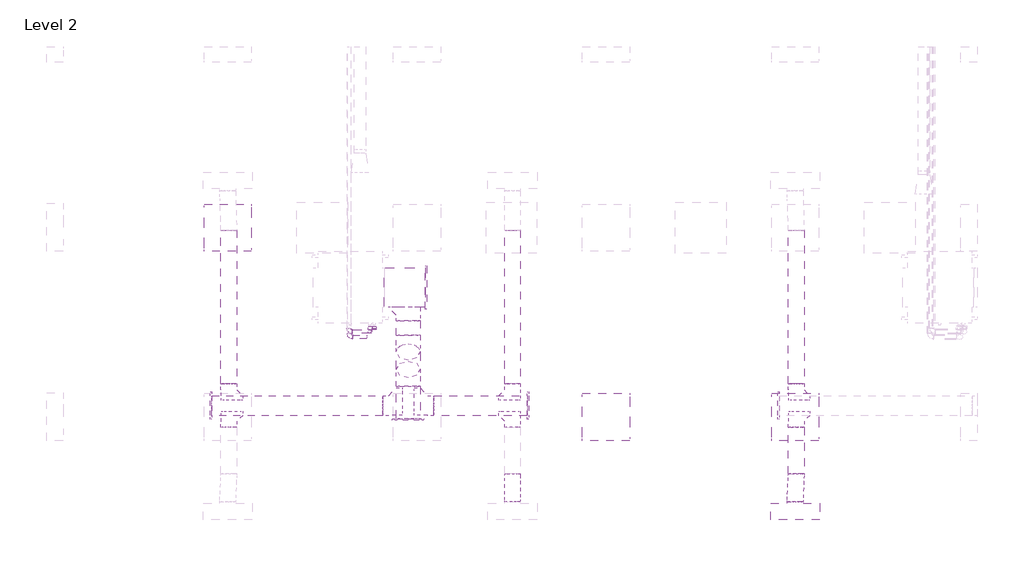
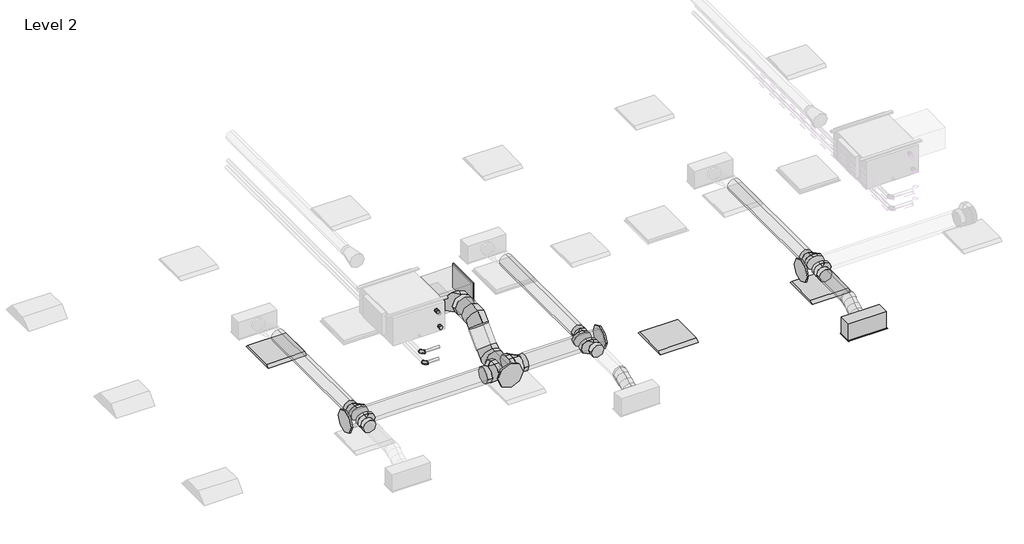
# One storey, part 5 of 26: 16 duct fittings, 12 duct segments, 4 pipe fittings, 4 pipe segments, 3 light fixtures, 1 air terminal.
"""IFC4 building model written with IfcOpenShell, lengths in millimetres."""

from ifc_helpers import new_model, si_unit, point, frame, frame_2d, origin, place, context, project, spatial, polyline, circle_curve, ellipse_curve, trimmed, segment, composite_curve, outline, extrude, transform, mapped, element, save
from ifc_brep_helpers import plane_surface, cylinder_surface, advanced_brep
from components import supply_diffuser_with_plenum_linear_slot_hosted_2b730595, dw144_rectangular_blank_end_standard_8fde7d16, dw144_round_blank_end_standard_f82b0856, dw144_round_blank_end_standard_9aa061e7, dw144_round_segmented_bend_slip_joint_standard_8b80c5ae, dw144_round_shoe_branch_slip_joint1_standard_2_15a2edd8, dw144_round_shoe_branch_slip_joint1_standard_2_559552f4, dw144_round_shoe_branch_slip_joint1_standard_2_7ba9e4ed, dw144_round_shoe_branch_slip_joint1_standard_2_67b64720, light_fixture_1c7c1157, elbow_threaded_gmi_standard_b4aa7741, socket_reducing_threaded_gmi_standard_0a4076b8

model = new_model("IFC4")

# Units and contexts
model_context = context("Model", 3, world=origin())
ifc_project = project(units=[si_unit("LENGTHUNIT", "METRE", prefix="MILLI")], contexts=[model_context])

# Site, building, storey
site = spatial("IfcSite", under=ifc_project)
building = spatial("IfcBuilding", under=site)
storey = spatial("IfcBuildingStorey", under=building, Name="Level 2", Elevation=7800.0)

# Air terminal
placement = place(None, origin())
supply_diffuser_with_plenum_linear_slot_hosted_shape = supply_diffuser_with_plenum_linear_slot_hosted_2b730595(model_context)
element("IfcAirTerminal", 1, ObjectType="Supply Diffuser with Plenum - Linear Slot - Hosted : 24\" x 8\"-200 In Inlet  4-Slot", at=placement, inside=storey, context=model_context, shape_type="MappedRepresentation", body=[
    mapped(supply_diffuser_with_plenum_linear_slot_hosted_shape, transform((23562.2000027, 963.2000004, 10600.0), x_axis=(1.0, 0.0, 0.0), y_axis=(0.0, -1.0, 0.0), z_axis=(0.0, 0.0, -1.0))),
])

# Duct fittings
dw144_rectangular_blank_end_standard_shape = dw144_rectangular_blank_end_standard_8fde7d16(model_context)
element("IfcDuctFitting", 2, ObjectType="DW144 Rectangular Blank End : Standard", at=placement, inside=storey, context=model_context, shape_type="MappedRepresentation", body=[
    mapped(dw144_rectangular_blank_end_standard_shape, transform((18866.2561025, 3806.0000004, 11276.3911538), x_axis=(1.0, 0.0, 0.0), y_axis=(0.0, 1.0, 0.0), z_axis=(0.0, 0.0, 1.0))),
])
dw144_round_blank_end_standard_shape = dw144_round_blank_end_standard_f82b0856(model_context)
element("IfcDuctFitting", 3, ObjectType="DW144 Round Blank End : Standard", at=placement, inside=storey, context=model_context, shape_type="MappedRepresentation", body=[
    mapped(dw144_round_blank_end_standard_shape, transform((18651.4561025, 2142.9916128, 10872.2088531), x_axis=(0.0, -1.0, 0.0), y_axis=(1.0, 0.0, 0.0), z_axis=(0.0, 0.0, 1.0))),
])
dw144_round_blank_end_standard_2_shape = dw144_round_blank_end_standard_9aa061e7(model_context)
element("IfcDuctFitting", 4, ObjectType="DW144 Round Blank End : Standard", at=placement, inside=storey, context=model_context, shape_type="MappedRepresentation", body=[
    mapped(dw144_round_blank_end_standard_2_shape, transform((20161.4561025, 2306.5018192, 10872.2088531), x_axis=(1.0, 0.0, 0.0), y_axis=(0.0, 1.0, 0.0), z_axis=(0.0, 0.0, 1.0))),
])
element("IfcDuctFitting", 5, ObjectType="DW144 Round Blank End : Standard", at=placement, inside=storey, context=model_context, shape_type="MappedRepresentation", body=[
    mapped(dw144_round_blank_end_standard_2_shape, transform((16161.4561025, 2306.5018192, 10872.2088531), x_axis=(-1.0, 0.0, 0.0), y_axis=(0.0, -1.0, 0.0), z_axis=(0.0, 0.0, 1.0))),
])
element("IfcDuctFitting", 6, ObjectType="DW144 Round Blank End : Standard", at=placement, inside=storey, context=model_context, shape_type="MappedRepresentation", body=[
    mapped(dw144_round_blank_end_standard_2_shape, transform((23361.4561025, 2306.5018192, 10872.2088531), x_axis=(-1.0, 0.0, 0.0), y_axis=(0.0, -1.0, 0.0), z_axis=(0.0, 0.0, 1.0))),
])
dw144_round_segmented_bend_slip_joint_standard_shape = dw144_round_segmented_bend_slip_joint_standard_8b80c5ae(model_context)
element("IfcDuctFitting", 7, ObjectType="DW144 Round Segmented Bend - Slip Joint : Standard", at=placement, inside=storey, context=model_context, shape_type="MappedRepresentation", body=[
    mapped(dw144_round_segmented_bend_slip_joint_standard_shape, transform((18651.4561025, 2678.6338536, 10872.2088531), x_axis=(0.0, -0.7071067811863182, -0.7071067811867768), y_axis=(0.0, 0.7071067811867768, -0.7071067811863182), z_axis=(1.0, 0.0, 0.0))),
])
element("IfcDuctFitting", 8, ObjectType="DW144 Round Segmented Bend - Slip Joint : Standard", at=placement, inside=storey, context=model_context, shape_type="MappedRepresentation", body=[
    mapped(dw144_round_segmented_bend_slip_joint_standard_shape, transform((18651.4561025, 3076.0000004, 11269.575), x_axis=(0.0, -1.0, 0.0), y_axis=(0.0, 0.0, 1.0), z_axis=(-1.0, 0.0, 0.0))),
])
dw144_round_shoe_branch_slip_joint1_standard_2_shape = dw144_round_shoe_branch_slip_joint1_standard_2_15a2edd8(model_context)
element("IfcDuctFitting", 9, ObjectType="DW144 Round Shoe Branch - Slip Joint1 : Standard 2", at=placement, inside=storey, context=model_context, shape_type="MappedRepresentation", body=[
    mapped(dw144_round_shoe_branch_slip_joint1_standard_2_shape, transform((16373.9000022, 2181.5018192, 10872.2088531), x_axis=(0.0, -1.0, 0.0), y_axis=(-1.0, 0.0, 0.0), z_axis=(0.0, 0.0, -1.0))),
])
element("IfcDuctFitting", 10, ObjectType="DW144 Round Shoe Branch - Slip Joint1 : Standard 2", at=placement, inside=storey, context=model_context, shape_type="MappedRepresentation", body=[
    mapped(dw144_round_shoe_branch_slip_joint1_standard_2_shape, transform((16373.9000022, 2431.5018192, 10872.2088531), x_axis=(0.0, 1.0, 0.0), y_axis=(-1.0, 0.0, 0.0), z_axis=(0.0, 0.0, 1.0))),
])
element("IfcDuctFitting", 11, ObjectType="DW144 Round Shoe Branch - Slip Joint1 : Standard 2", at=placement, inside=storey, context=model_context, shape_type="MappedRepresentation", body=[
    mapped(dw144_round_shoe_branch_slip_joint1_standard_2_shape, transform((23573.9000022, 2181.5018192, 10872.2088531), x_axis=(0.0, -1.0, 0.0), y_axis=(-1.0, 0.0, 0.0), z_axis=(0.0, 0.0, -1.0))),
])
element("IfcDuctFitting", 12, ObjectType="DW144 Round Shoe Branch - Slip Joint1 : Standard 2", at=placement, inside=storey, context=model_context, shape_type="MappedRepresentation", body=[
    mapped(dw144_round_shoe_branch_slip_joint1_standard_2_shape, transform((23573.9000022, 2431.5018192, 10872.2088531), x_axis=(0.0, 1.0, 0.0), y_axis=(-1.0, 0.0, 0.0), z_axis=(0.0, 0.0, 1.0))),
])
dw144_round_shoe_branch_slip_joint1_standard_2_2_shape = dw144_round_shoe_branch_slip_joint1_standard_2_559552f4(model_context)
element("IfcDuctFitting", 13, ObjectType="DW144 Round Shoe Branch - Slip Joint1 : Standard 2", at=placement, inside=storey, context=model_context, shape_type="MappedRepresentation", body=[
    mapped(dw144_round_shoe_branch_slip_joint1_standard_2_2_shape, transform((19973.9000022, 2181.5018192, 10872.2088531), x_axis=(0.0, -1.0, 0.0), y_axis=(-1.0, 0.0, 0.0), z_axis=(0.0, 0.0, -1.0))),
])
element("IfcDuctFitting", 14, ObjectType="DW144 Round Shoe Branch - Slip Joint1 : Standard 2", at=placement, inside=storey, context=model_context, shape_type="MappedRepresentation", body=[
    mapped(dw144_round_shoe_branch_slip_joint1_standard_2_2_shape, transform((19973.9000022, 2431.5018192, 10872.2088531), x_axis=(0.0, 1.0, 0.0), y_axis=(-1.0, 0.0, 0.0), z_axis=(0.0, 0.0, 1.0))),
])
dw144_round_shoe_branch_slip_joint1_standard_2_3_shape = dw144_round_shoe_branch_slip_joint1_standard_2_7ba9e4ed(model_context)
element("IfcDuctFitting", 15, ObjectType="DW144 Round Shoe Branch - Slip Joint1 : Standard 2", at=placement, inside=storey, context=model_context, shape_type="MappedRepresentation", body=[
    mapped(dw144_round_shoe_branch_slip_joint1_standard_2_3_shape, transform((18651.4561025, 3556.0000004, 11269.575), x_axis=(0.0, -1.0, 0.0), y_axis=(-1.0, 0.0, 0.0), z_axis=(0.0, 0.0, -1.0))),
])
dw144_round_shoe_branch_slip_joint1_standard_2_4_shape = dw144_round_shoe_branch_slip_joint1_standard_2_67b64720(model_context)
element("IfcDuctFitting", 16, ObjectType="DW144 Round Shoe Branch - Slip Joint1 : Standard 2", at=placement, inside=storey, context=model_context, shape_type="MappedRepresentation", body=[
    mapped(dw144_round_shoe_branch_slip_joint1_standard_2_4_shape, transform((18801.4561025, 2306.5018192, 10872.2088531), x_axis=(1.0, 0.0, 0.0), y_axis=(0.0, -1.0, 0.0), z_axis=(0.0, 0.0, -1.0))),
])
element("IfcDuctFitting", 17, ObjectType="DW144 Round Shoe Branch - Slip Joint1 : Standard 2", at=placement, inside=storey, context=model_context, shape_type="MappedRepresentation", body=[
    mapped(dw144_round_shoe_branch_slip_joint1_standard_2_4_shape, transform((18501.4561025, 2306.5018192, 10872.2088531), x_axis=(-1.0, 0.0, 0.0), y_axis=(0.0, -1.0, 0.0), z_axis=(0.0, 0.0, 1.0))),
])

# Duct segments
element("IfcDuctSegment", 18, ObjectType="DW144 Flanged Med Radius Bend / Shoe Branch", at=placement, inside=storey, context=model_context, shape_type="SweptSolid", body=[
    extrude(outline(polyline([(18346.6561025, 3556.0000004), (18346.6561025, 4056.0000004), (18866.2561025, 4056.0000004), (18866.2561025, 3556.0000004), (18346.6561025, 3556.0000004)])), frame((0.0, 0.0, 11101.3911538), z_axis=(0.0, 0.0, 1.0), x_axis=(1.0, 0.0, 0.0)), (0.0, 0.0, 1.0), 350.0),
])
element("IfcDuctSegment", 19, ObjectType="DW144 Segmented Bend / Shoe Branch", at=placement, inside=storey, context=model_context, shape_type="SweptSolid", body=[
    extrude(outline(composite_curve([segment(trimmed(circle_curve(frame_2d((11269.575, 18651.4561025)), 150.0), [point((11269.575, 18501.4561025))], [point((11119.575, 18651.4561025))], False, "CARTESIAN"), True, "CONTINUOUS"), segment(trimmed(circle_curve(frame_2d((11269.575, 18651.4561025)), 150.0), [point((11119.575, 18651.4561025))], [point((11269.575, 18801.4561025))], False, "CARTESIAN"), True, "CONTINUOUS"), segment(trimmed(circle_curve(frame_2d((11269.575, 18651.4561025)), 150.0), [point((11269.575, 18801.4561025))], [point((11419.575, 18651.4561025))], False, "CARTESIAN"), True, "CONTINUOUS"), segment(trimmed(circle_curve(frame_2d((11269.575, 18651.4561025)), 150.0), [point((11419.575, 18651.4561025))], [point((11269.575, 18501.4561025))], False, "CARTESIAN"), True, "CONTINUOUS")], self_intersect=False)), frame((0.0, 3200.2640691, 0.0), z_axis=(0.0, 1.0, 0.0), x_axis=(0.0, 0.0, 1.0)), (0.0, 0.0, 1.0), 180.7359313),
])
element("IfcDuctSegment", 20, ObjectType="DW144 Segmented Bend / Shoe Branch", at=placement, inside=storey, context=model_context, shape_type="SweptSolid", body=[
    extrude(outline(composite_curve([segment(trimmed(circle_curve(frame_2d((10872.2088531, 18651.4561025)), 150.0), [point((10872.2088531, 18501.4561025))], [point((10722.2088531, 18651.4561025))], False, "CARTESIAN"), True, "CONTINUOUS"), segment(trimmed(circle_curve(frame_2d((10872.2088531, 18651.4561025)), 150.0), [point((10722.2088531, 18651.4561025))], [point((10872.2088531, 18801.4561025))], False, "CARTESIAN"), True, "CONTINUOUS"), segment(trimmed(circle_curve(frame_2d((10872.2088531, 18651.4561025)), 150.0), [point((10872.2088531, 18801.4561025))], [point((11022.2088531, 18651.4561025))], False, "CARTESIAN"), True, "CONTINUOUS"), segment(trimmed(circle_curve(frame_2d((10872.2088531, 18651.4561025)), 150.0), [point((11022.2088531, 18651.4561025))], [point((10872.2088531, 18501.4561025))], False, "CARTESIAN"), True, "CONTINUOUS")], self_intersect=False)), frame((0.0, 2142.9916128, 0.0), z_axis=(0.0, 1.0, 0.0), x_axis=(0.0, 0.0, 1.0)), (0.0, 0.0, 1.0), 411.3781721),
])
element("IfcDuctSegment", 21, ObjectType="DW144 Segmented Bend / Shoe Branch", at=placement, inside=storey, context=model_context, shape_type="SweptSolid", body=[
    extrude(outline(composite_curve([segment(trimmed(circle_curve(frame_2d((0.0, -150.0)), 150.0), [point((-150.0, -150.0))], [point((0.0, 0.0))], False, "CARTESIAN"), True, "CONTINUOUS"), segment(trimmed(circle_curve(frame_2d((0.0, -150.0)), 150.0), [point((0.0, 0.0))], [point((150.0, -150.0))], False, "CARTESIAN"), True, "CONTINUOUS"), segment(trimmed(circle_curve(frame_2d((0.0, -150.0)), 150.0), [point((150.0, -150.0))], [point((0.0, -300.0))], False, "CARTESIAN"), True, "CONTINUOUS"), segment(trimmed(circle_curve(frame_2d((0.0, -150.0)), 150.0), [point((0.0, -300.0))], [point((-150.0, -150.0))], False, "CARTESIAN"), True, "CONTINUOUS")], self_intersect=False)), frame((18651.4561025, 2872.5678364, 10854.0108016), z_axis=(0.0, 0.7071067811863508, 0.7071067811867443), x_axis=(1.0, 0.0, 0.0)), (0.0, 0.0, 1.0), 313.4324567),
])
element("IfcDuctSegment", 22, ObjectType="DW144 Segmented Bend / Shoe Branch", at=placement, inside=storey, context=model_context, shape_type="SweptSolid", body=[
    extrude(outline(composite_curve([segment(trimmed(circle_curve(frame_2d((2306.5018192, 10872.2088531)), 125.0), [point((2181.5018192, 10872.2088531))], [point((2306.5018192, 10997.2088531))], False, "CARTESIAN"), True, "CONTINUOUS"), segment(trimmed(circle_curve(frame_2d((2306.5018192, 10872.2088531)), 125.0), [point((2306.5018192, 10997.2088531))], [point((2431.5018192, 10872.2088531))], False, "CARTESIAN"), True, "CONTINUOUS"), segment(trimmed(circle_curve(frame_2d((2306.5018192, 10872.2088531)), 125.0), [point((2431.5018192, 10872.2088531))], [point((2306.5018192, 10747.2088531))], False, "CARTESIAN"), True, "CONTINUOUS"), segment(trimmed(circle_curve(frame_2d((2306.5018192, 10872.2088531)), 125.0), [point((2306.5018192, 10747.2088531))], [point((2181.5018192, 10872.2088531))], False, "CARTESIAN"), True, "CONTINUOUS")], self_intersect=False)), frame((18976.4561025, 0.0, 0.0), z_axis=(1.0, 0.0, 0.0), x_axis=(0.0, 1.0, 0.0)), (0.0, 0.0, 1.0), 1185.0),
])
element("IfcDuctSegment", 23, ObjectType="DW144 Segmented Bend / Shoe Branch", at=placement, inside=storey, context=model_context, shape_type="SweptSolid", body=[
    extrude(outline(composite_curve([segment(trimmed(circle_curve(frame_2d((2306.5018192, 10872.2088531)), 125.0), [point((2431.5018192, 10872.2088531))], [point((2306.5018192, 10747.2088531))], False, "CARTESIAN"), True, "CONTINUOUS"), segment(trimmed(circle_curve(frame_2d((2306.5018192, 10872.2088531)), 125.0), [point((2306.5018192, 10747.2088531))], [point((2181.5018192, 10872.2088531))], False, "CARTESIAN"), True, "CONTINUOUS"), segment(trimmed(circle_curve(frame_2d((2306.5018192, 10872.2088531)), 125.0), [point((2181.5018192, 10872.2088531))], [point((2306.5018192, 10997.2088531))], False, "CARTESIAN"), True, "CONTINUOUS"), segment(trimmed(circle_curve(frame_2d((2306.5018192, 10872.2088531)), 125.0), [point((2306.5018192, 10997.2088531))], [point((2431.5018192, 10872.2088531))], False, "CARTESIAN"), True, "CONTINUOUS")], self_intersect=False)), frame((16161.4561025, 0.0, 0.0), z_axis=(1.0, 0.0, 0.0), x_axis=(0.0, 1.0, 0.0)), (0.0, 0.0, 1.0), 2165.0),
])
element("IfcDuctSegment", 24, ObjectType="DW144 Segmented Bend / Shoe Branch", at=placement, inside=storey, context=model_context, shape_type="SweptSolid", body=[
    extrude(outline(composite_curve([segment(trimmed(circle_curve(frame_2d((10872.2088531, 19973.9000022)), 100.0), [point((10872.2088531, 20073.9000022))], [point((10972.2088531, 19973.9000022))], False, "CARTESIAN"), True, "CONTINUOUS"), segment(trimmed(circle_curve(frame_2d((10872.2088531, 19973.9000022)), 100.0), [point((10972.2088531, 19973.9000022))], [point((10872.2088531, 19873.9000022))], False, "CARTESIAN"), True, "CONTINUOUS"), segment(trimmed(circle_curve(frame_2d((10872.2088531, 19973.9000022)), 100.0), [point((10872.2088531, 19873.9000022))], [point((10772.2088531, 19973.9000022))], False, "CARTESIAN"), True, "CONTINUOUS"), segment(trimmed(circle_curve(frame_2d((10872.2088531, 19973.9000022)), 100.0), [point((10772.2088531, 19973.9000022))], [point((10872.2088531, 20073.9000022))], False, "CARTESIAN"), True, "CONTINUOUS")], self_intersect=False)), frame((0.0, 2581.5018192, 0.0), z_axis=(0.0, 1.0, 0.0), x_axis=(0.0, 0.0, 1.0)), (0.0, 0.0, 1.0), 1950.0),
])
element("IfcDuctSegment", 25, ObjectType="DW144 Segmented Bend / Shoe Branch", at=placement, inside=storey, context=model_context, shape_type="SweptSolid", body=[
    extrude(outline(composite_curve([segment(trimmed(circle_curve(frame_2d((10872.2088531, 16373.9000022)), 100.0), [point((10872.2088531, 16473.9000022))], [point((10972.2088531, 16373.9000022))], False, "CARTESIAN"), True, "CONTINUOUS"), segment(trimmed(circle_curve(frame_2d((10872.2088531, 16373.9000022)), 100.0), [point((10972.2088531, 16373.9000022))], [point((10872.2088531, 16273.9000022))], False, "CARTESIAN"), True, "CONTINUOUS"), segment(trimmed(circle_curve(frame_2d((10872.2088531, 16373.9000022)), 100.0), [point((10872.2088531, 16273.9000022))], [point((10772.2088531, 16373.9000022))], False, "CARTESIAN"), True, "CONTINUOUS"), segment(trimmed(circle_curve(frame_2d((10872.2088531, 16373.9000022)), 100.0), [point((10772.2088531, 16373.9000022))], [point((10872.2088531, 16473.9000022))], False, "CARTESIAN"), True, "CONTINUOUS")], self_intersect=False)), frame((0.0, 2581.5018192, 0.0), z_axis=(0.0, 1.0, 0.0), x_axis=(0.0, 0.0, 1.0)), (0.0, 0.0, 1.0), 1950.0),
])
element("IfcDuctSegment", 26, ObjectType="DW144 Segmented Bend / Shoe Branch", at=placement, inside=storey, context=model_context, shape_type="SweptSolid", body=[
    extrude(outline(composite_curve([segment(trimmed(circle_curve(frame_2d((10872.2088531, 23573.9000022)), 100.0), [point((10872.2088531, 23673.9000022))], [point((10972.2088531, 23573.9000022))], False, "CARTESIAN"), True, "CONTINUOUS"), segment(trimmed(circle_curve(frame_2d((10872.2088531, 23573.9000022)), 100.0), [point((10972.2088531, 23573.9000022))], [point((10872.2088531, 23473.9000022))], False, "CARTESIAN"), True, "CONTINUOUS"), segment(trimmed(circle_curve(frame_2d((10872.2088531, 23573.9000022)), 100.0), [point((10872.2088531, 23473.9000022))], [point((10772.2088531, 23573.9000022))], False, "CARTESIAN"), True, "CONTINUOUS"), segment(trimmed(circle_curve(frame_2d((10872.2088531, 23573.9000022)), 100.0), [point((10772.2088531, 23573.9000022))], [point((10872.2088531, 23673.9000022))], False, "CARTESIAN"), True, "CONTINUOUS")], self_intersect=False)), frame((0.0, 1441.5018192, 0.0), z_axis=(0.0, 1.0, 0.0), x_axis=(0.0, 0.0, 1.0)), (0.0, 0.0, 1.0), 590.0),
])
element("IfcDuctSegment", 27, ObjectType="DW144 Segmented Bend / Shoe Branch", at=placement, inside=storey, context=model_context, shape_type="SweptSolid", body=[
    extrude(outline(composite_curve([segment(trimmed(circle_curve(frame_2d((10872.2088531, 23573.9000022)), 100.0), [point((10872.2088531, 23673.9000022))], [point((10972.2088531, 23573.9000022))], False, "CARTESIAN"), True, "CONTINUOUS"), segment(trimmed(circle_curve(frame_2d((10872.2088531, 23573.9000022)), 100.0), [point((10972.2088531, 23573.9000022))], [point((10872.2088531, 23473.9000022))], False, "CARTESIAN"), True, "CONTINUOUS"), segment(trimmed(circle_curve(frame_2d((10872.2088531, 23573.9000022)), 100.0), [point((10872.2088531, 23473.9000022))], [point((10772.2088531, 23573.9000022))], False, "CARTESIAN"), True, "CONTINUOUS"), segment(trimmed(circle_curve(frame_2d((10872.2088531, 23573.9000022)), 100.0), [point((10772.2088531, 23573.9000022))], [point((10872.2088531, 23673.9000022))], False, "CARTESIAN"), True, "CONTINUOUS")], self_intersect=False)), frame((0.0, 2581.5018192, 0.0), z_axis=(0.0, 1.0, 0.0), x_axis=(0.0, 0.0, 1.0)), (0.0, 0.0, 1.0), 1950.0),
])
element("IfcDuctSegment", 28, ObjectType="Flex - Round", at=placement, inside=storey, context=model_context, shape_type="AdvancedBrep", body=[
    advanced_brep(
    [(20073.9000022, 1441.5018192, 10872.2088531), (19973.9000022, 1441.5018192, 10772.2088531), (19873.9000022, 1441.5018192, 10872.2088531), (19973.9000022, 1441.5018192, 10972.2088531), (20073.9000022, 1421.3839149, 10872.2088531), (19973.9000022, 1434.4005436, 10772.2088531), (19873.9000022, 1421.3839149, 10872.2088531), (19973.9000022, 1408.3672862, 10972.2088531), (20073.9000022, 1090.2000004, 10754.4), (19973.9000022, 1090.2000004, 10854.4), (19873.9000022, 1090.2000004, 10754.4), (19973.9000022, 1090.2000004, 10654.4), (20073.9000022, 1351.8737968, 10853.8012198), (19973.9000022, 1386.2511922, 10759.4579669), (19873.9000022, 1351.8737968, 10853.8012198), (19973.9000022, 1317.4964014, 10948.1444727), (20073.9000022, 1265.8509098, 10813.3044266), (19973.9000022, 1308.4439034, 10722.8288116), (19873.9000022, 1265.8509098, 10813.3044266), (19973.9000022, 1223.2579162, 10903.7800415), (20073.9000022, 1179.8280228, 10772.8076333), (19973.9000022, 1214.2054182, 10678.4643804), (19873.9000022, 1179.8280228, 10772.8076333), (19973.9000022, 1145.4506275, 10867.1508862), (20073.9000022, 1110.3179048, 10754.4), (19973.9000022, 1123.3345334, 10654.4), (19873.9000022, 1110.3179048, 10754.4), (19973.9000022, 1097.3012761, 10854.4)],
    [
        (0, 1, circle_curve(frame((19973.9000022, 1441.5018192, 10872.2088531), z_axis=(0.0, 1.0, 0.0), x_axis=(1.0, 0.0, 0.0)), 100.0)),
        (1, 2, circle_curve(frame((19973.9000022, 1441.5018192, 10872.2088531), z_axis=(0.0, 1.0, 0.0), x_axis=(1.0, 0.0, 0.0)), 100.0)),
        (2, 3, circle_curve(frame((19973.9000022, 1441.5018192, 10872.2088531), z_axis=(0.0, 1.0, 0.0), x_axis=(1.0, 0.0, 0.0)), 100.0)),
        (3, 0, circle_curve(frame((19973.9000022, 1441.5018192, 10872.2088531), z_axis=(0.0, 1.0, 0.0), x_axis=(1.0, 0.0, 0.0)), 100.0)),
        (0, 4),
        (4, 5, ellipse_curve(frame((19973.9000022, 1421.3839149, 10872.2088531), z_axis=(0.0, 0.9916345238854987, 0.12907738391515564), x_axis=(0.0, 0.12907738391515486, -0.9916345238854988)), 100.8436048, 100.0)),
        (5, 1),
        (5, 6, ellipse_curve(frame((19973.9000022, 1421.3839149, 10872.2088531), z_axis=(0.0, 0.9916345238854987, 0.12907738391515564), x_axis=(0.0, 0.12907738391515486, -0.9916345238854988)), 100.8436048, 100.0)),
        (6, 2),
        (6, 7, ellipse_curve(frame((19973.9000022, 1421.3839149, 10872.2088531), z_axis=(0.0, 0.9916345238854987, 0.12907738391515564), x_axis=(0.0, 0.12907738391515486, -0.9916345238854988)), 100.8436048, 100.0)),
        (7, 3),
        (7, 4, ellipse_curve(frame((19973.9000022, 1421.3839149, 10872.2088531), z_axis=(0.0, 0.9916345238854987, 0.12907738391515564), x_axis=(0.0, 0.12907738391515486, -0.9916345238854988)), 100.8436048, 100.0)),
        (8, 9, circle_curve(frame((19973.9000022, 1090.2000004, 10754.4), z_axis=(0.0, -1.0, 0.0), x_axis=(1.0, 0.0, 0.0)), 100.0)),
        (9, 10, circle_curve(frame((19973.9000022, 1090.2000004, 10754.4), z_axis=(0.0, -1.0, 0.0), x_axis=(1.0, 0.0, 0.0)), 100.0)),
        (10, 11, circle_curve(frame((19973.9000022, 1090.2000004, 10754.4), z_axis=(0.0, -1.0, 0.0), x_axis=(1.0, 0.0, 0.0)), 100.0)),
        (11, 8, circle_curve(frame((19973.9000022, 1090.2000004, 10754.4), z_axis=(0.0, -1.0, 0.0), x_axis=(1.0, 0.0, 0.0)), 100.0)),
        (4, 12),
        (12, 13, ellipse_curve(frame((19973.9000022, 1351.8737968, 10853.8012198), z_axis=(0.0, 0.939566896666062, 0.342365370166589), x_axis=(0.0, 0.34236537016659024, -0.9395668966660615)), 100.411427, 100.0)),
        (13, 5),
        (13, 14, ellipse_curve(frame((19973.9000022, 1351.8737968, 10853.8012198), z_axis=(0.0, 0.939566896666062, 0.342365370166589), x_axis=(0.0, 0.34236537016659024, -0.9395668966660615)), 100.411427, 100.0)),
        (14, 6),
        (14, 15, ellipse_curve(frame((19973.9000022, 1351.8737968, 10853.8012198), z_axis=(0.0, 0.939566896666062, 0.342365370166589), x_axis=(0.0, 0.34236537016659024, -0.9395668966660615)), 100.411427, 100.0)),
        (15, 7),
        (15, 12, ellipse_curve(frame((19973.9000022, 1351.8737968, 10853.8012198), z_axis=(0.0, 0.939566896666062, 0.342365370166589), x_axis=(0.0, 0.34236537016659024, -0.9395668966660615)), 100.411427, 100.0)),
        (12, 16),
        (16, 17, circle_curve(frame((19973.9000022, 1265.8509098, 10813.3044266), z_axis=(0.0, 0.9047561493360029, 0.4259299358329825), x_axis=(1.0, 0.0, 0.0)), 100.0)),
        (17, 13),
        (17, 18, circle_curve(frame((19973.9000022, 1265.8509098, 10813.3044266), z_axis=(0.0, 0.9047561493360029, 0.4259299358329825), x_axis=(1.0, 0.0, 0.0)), 100.0)),
        (18, 14),
        (18, 19, circle_curve(frame((19973.9000022, 1265.8509098, 10813.3044266), z_axis=(0.0, 0.9047561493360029, 0.4259299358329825), x_axis=(1.0, 0.0, 0.0)), 100.0)),
        (19, 15),
        (19, 16, circle_curve(frame((19973.9000022, 1265.8509098, 10813.3044266), z_axis=(0.0, 0.9047561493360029, 0.4259299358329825), x_axis=(1.0, 0.0, 0.0)), 100.0)),
        (16, 20),
        (20, 21, ellipse_curve(frame((19973.9000022, 1179.8280228, 10772.8076333), z_axis=(0.0, 0.9395668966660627, 0.34236537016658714), x_axis=(0.0, -0.3423653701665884, 0.9395668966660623)), 100.411427, 100.0)),
        (21, 17),
        (21, 22, ellipse_curve(frame((19973.9000022, 1179.8280228, 10772.8076333), z_axis=(0.0, 0.9395668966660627, 0.34236537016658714), x_axis=(0.0, -0.3423653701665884, 0.9395668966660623)), 100.411427, 100.0)),
        (22, 18),
        (22, 23, ellipse_curve(frame((19973.9000022, 1179.8280228, 10772.8076333), z_axis=(0.0, 0.9395668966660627, 0.34236537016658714), x_axis=(0.0, -0.3423653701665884, 0.9395668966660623)), 100.411427, 100.0)),
        (23, 19),
        (23, 20, ellipse_curve(frame((19973.9000022, 1179.8280228, 10772.8076333), z_axis=(0.0, 0.9395668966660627, 0.34236537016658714), x_axis=(0.0, -0.3423653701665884, 0.9395668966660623)), 100.411427, 100.0)),
        (20, 24),
        (24, 25, ellipse_curve(frame((19973.9000022, 1110.3179048, 10754.4), z_axis=(0.0, 0.9916345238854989, 0.1290773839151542), x_axis=(0.0, -0.12907738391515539, 0.9916345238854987)), 100.8436048, 100.0)),
        (25, 21),
        (25, 26, ellipse_curve(frame((19973.9000022, 1110.3179048, 10754.4), z_axis=(0.0, 0.9916345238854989, 0.1290773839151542), x_axis=(0.0, -0.12907738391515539, 0.9916345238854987)), 100.8436048, 100.0)),
        (26, 22),
        (26, 27, ellipse_curve(frame((19973.9000022, 1110.3179048, 10754.4), z_axis=(0.0, 0.9916345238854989, 0.1290773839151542), x_axis=(0.0, -0.12907738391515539, 0.9916345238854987)), 100.8436048, 100.0)),
        (27, 23),
        (27, 24, ellipse_curve(frame((19973.9000022, 1110.3179048, 10754.4), z_axis=(0.0, 0.9916345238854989, 0.1290773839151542), x_axis=(0.0, -0.12907738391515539, 0.9916345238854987)), 100.8436048, 100.0)),
        (24, 8),
        (11, 25),
        (10, 26),
        (9, 27),
    ],
    [
        plane_surface(frame((19873.9000022, 1441.5018192, 10872.2088531), z_axis=(0.0, 1.0, 0.0), x_axis=(0.0, 0.0, -1.0))),
        cylinder_surface(frame((19973.9000022, 1441.5018192, 10872.2088531), z_axis=(0.0, 1.0, 0.0), x_axis=(1.0, 0.0, 0.0)), 100.0),
        plane_surface(frame((19873.9000022, 1090.2000004, 10754.4), z_axis=(0.0, -1.0, 0.0), x_axis=(0.0, 0.0, -1.0))),
        cylinder_surface(frame((19973.9000022, 1421.3839149, 10872.2088531), z_axis=(0.0, 0.966678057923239, 0.2559951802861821), x_axis=(1.0, 0.0, 0.0)), 100.0),
        cylinder_surface(frame((19973.9000022, 1351.8737968, 10853.8012198), z_axis=(0.0, 0.9047561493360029, 0.4259299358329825), x_axis=(1.0, 0.0, 0.0)), 100.0),
        cylinder_surface(frame((19973.9000022, 1265.8509098, 10813.3044266), z_axis=(0.0, 0.9047561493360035, 0.4259299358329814), x_axis=(1.0, 0.0, 0.0)), 100.0),
        cylinder_surface(frame((19973.9000022, 1179.8280228, 10772.8076333), z_axis=(0.0, 0.9666780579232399, 0.2559951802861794), x_axis=(1.0, 0.0, 0.0)), 100.0),
        cylinder_surface(frame((19973.9000022, 1110.3179048, 10754.4), z_axis=(0.0, 1.0, 0.0), x_axis=(1.0, 0.0, 0.0)), 100.0),
    ],
    [
        (0, [[1, 2, 3, 4]]),
        (1, [[-1, 5, 6, 7]]),
        (1, [[-2, -7, 8, 9]]),
        (1, [[-3, -9, 10, 11]]),
        (1, [[-4, -11, 12, -5]]),
        (2, [[13, 14, 15, 16]]),
        (3, [[-6, 17, 18, 19]]),
        (3, [[-8, -19, 20, 21]]),
        (3, [[-10, -21, 22, 23]]),
        (3, [[-12, -23, 24, -17]]),
        (4, [[-18, 25, 26, 27]]),
        (4, [[-20, -27, 28, 29]]),
        (4, [[-22, -29, 30, 31]]),
        (4, [[-24, -31, 32, -25]]),
        (5, [[-26, 33, 34, 35]]),
        (5, [[-28, -35, 36, 37]]),
        (5, [[-30, -37, 38, 39]]),
        (5, [[-32, -39, 40, -33]]),
        (6, [[-34, 41, 42, 43]]),
        (6, [[-36, -43, 44, 45]]),
        (6, [[-38, -45, 46, 47]]),
        (6, [[-40, -47, 48, -41]]),
        (7, [[-42, 49, -16, 50]]),
        (7, [[-44, -50, -15, 51]]),
        (7, [[-46, -51, -14, 52]]),
        (7, [[-48, -52, -13, -49]]),
    ],
),
])
element("IfcDuctSegment", 29, ObjectType="Flex - Round", at=placement, inside=storey, context=model_context, shape_type="AdvancedBrep", body=[
    advanced_brep(
    [(23673.9000022, 1441.5018192, 10872.2088531), (23573.9000022, 1441.5018192, 10772.2088531), (23473.9000022, 1441.5018192, 10872.2088531), (23573.9000022, 1441.5018192, 10972.2088531), (23673.9000022, 1420.0995917, 10872.2088531), (23573.9000022, 1434.401614, 10772.2088531), (23473.9000022, 1422.6837186, 10872.2088531), (23573.9000022, 1408.3816962, 10972.2088531), (23662.2000027, 1090.2000004, 10754.4), (23562.2000027, 1090.2000004, 10854.4), (23462.2000027, 1090.2000004, 10754.4), (23562.2000027, 1090.2000004, 10654.4), (23672.0161428, 1348.4444846, 10853.2400219), (23572.6330752, 1386.2123534, 10759.4519962), (23472.1276118, 1355.2684822, 10854.3624177), (23571.5106794, 1317.5006134, 10948.1504435), (23667.9561574, 1261.6239384, 10812.3594887), (23568.9949403, 1308.4128474, 10722.8191318), (23468.1438475, 1270.0778812, 10814.2493644), (23567.1050646, 1223.2889723, 10903.7897213), (23663.9723931, 1176.4333374, 10772.2464354), (23564.5893255, 1214.2012062, 10678.4584097), (23464.0838621, 1183.257335, 10773.3688312), (23563.4669297, 1145.4894662, 10867.1568569), (23662.2000027, 1109.0181011, 10754.4), (23562.2000027, 1123.3201234, 10654.4), (23462.2000027, 1111.602228, 10754.4), (23562.2000027, 1097.3002057, 10854.4)],
    [
        (0, 1, circle_curve(frame((23573.9000022, 1441.5018192, 10872.2088531), z_axis=(0.0, 1.0, 0.0), x_axis=(1.0, 0.0, 0.0)), 100.0)),
        (1, 2, circle_curve(frame((23573.9000022, 1441.5018192, 10872.2088531), z_axis=(0.0, 1.0, 0.0), x_axis=(1.0, 0.0, 0.0)), 100.0)),
        (2, 3, circle_curve(frame((23573.9000022, 1441.5018192, 10872.2088531), z_axis=(0.0, 1.0, 0.0), x_axis=(1.0, 0.0, 0.0)), 100.0)),
        (3, 0, circle_curve(frame((23573.9000022, 1441.5018192, 10872.2088531), z_axis=(0.0, 1.0, 0.0), x_axis=(1.0, 0.0, 0.0)), 100.0)),
        (0, 4),
        (4, 5, ellipse_curve(frame((23573.9000022, 1421.3916551, 10872.2088531), z_axis=(0.012811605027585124, 0.9915616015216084, 0.12900175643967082), x_axis=(-0.09799329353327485, 0.1296363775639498, -0.9867075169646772)), 100.8510211, 100.0)),
        (5, 1),
        (5, 6, ellipse_curve(frame((23573.9000022, 1421.3916551, 10872.2088531), z_axis=(0.012811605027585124, 0.9915616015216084, 0.12900175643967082), x_axis=(-0.09799329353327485, 0.1296363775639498, -0.9867075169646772)), 100.8510211, 100.0)),
        (6, 2),
        (6, 7, ellipse_curve(frame((23573.9000022, 1421.3916551, 10872.2088531), z_axis=(0.012811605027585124, 0.9915616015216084, 0.12900175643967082), x_axis=(-0.09799329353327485, 0.1296363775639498, -0.9867075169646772)), 100.8510211, 100.0)),
        (7, 3),
        (7, 4, ellipse_curve(frame((23573.9000022, 1421.3916551, 10872.2088531), z_axis=(0.012811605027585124, 0.9915616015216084, 0.12900175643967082), x_axis=(-0.09799329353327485, 0.1296363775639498, -0.9867075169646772)), 100.8510211, 100.0)),
        (8, 9, circle_curve(frame((23562.2000027, 1090.2000004, 10754.4), z_axis=(0.0, -1.0, 0.0), x_axis=(1.0, 0.0, 0.0)), 100.0)),
        (9, 10, circle_curve(frame((23562.2000027, 1090.2000004, 10754.4), z_axis=(0.0, -1.0, 0.0), x_axis=(1.0, 0.0, 0.0)), 100.0)),
        (10, 11, circle_curve(frame((23562.2000027, 1090.2000004, 10754.4), z_axis=(0.0, -1.0, 0.0), x_axis=(1.0, 0.0, 0.0)), 100.0)),
        (11, 8, circle_curve(frame((23562.2000027, 1090.2000004, 10754.4), z_axis=(0.0, -1.0, 0.0), x_axis=(1.0, 0.0, 0.0)), 100.0)),
        (4, 12),
        (12, 13, ellipse_curve(frame((23572.0718773, 1351.8564834, 10853.8012198), z_axis=(0.03397887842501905, 0.9390352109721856, 0.342137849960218), x_axis=(-0.09280225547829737, 0.3438209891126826, -0.9344382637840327)), 100.4152859, 100.0)),
        (13, 5),
        (13, 14, ellipse_curve(frame((23572.0718773, 1351.8564834, 10853.8012198), z_axis=(0.03397887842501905, 0.9390352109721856, 0.342137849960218), x_axis=(-0.09280225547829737, 0.3438209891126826, -0.9344382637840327)), 100.4152859, 100.0)),
        (14, 6),
        (14, 15, ellipse_curve(frame((23572.0718773, 1351.8564834, 10853.8012198), z_axis=(0.03397887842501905, 0.9390352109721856, 0.342137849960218), x_axis=(-0.09280225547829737, 0.3438209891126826, -0.9344382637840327)), 100.4152859, 100.0)),
        (15, 7),
        (15, 12, ellipse_curve(frame((23572.0718773, 1351.8564834, 10853.8012198), z_axis=(0.03397887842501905, 0.9390352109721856, 0.342137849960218), x_axis=(-0.09280225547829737, 0.3438209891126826, -0.9344382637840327)), 100.4152859, 100.0)),
        (12, 16),
        (16, 17, circle_curve(frame((23568.0500024, 1265.8509098, 10813.3044266), z_axis=(0.042269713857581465, 0.9039144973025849, 0.4256193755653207), x_axis=(0.9990615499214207, -0.04226971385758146, -0.009449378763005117)), 100.0)),
        (17, 13),
        (17, 18, circle_curve(frame((23568.0500024, 1265.8509098, 10813.3044266), z_axis=(0.042269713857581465, 0.9039144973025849, 0.4256193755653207), x_axis=(0.9990615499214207, -0.04226971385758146, -0.009449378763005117)), 100.0)),
        (18, 14),
        (18, 19, circle_curve(frame((23568.0500024, 1265.8509098, 10813.3044266), z_axis=(0.042269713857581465, 0.9039144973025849, 0.4256193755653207), x_axis=(0.9990615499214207, -0.04226971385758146, -0.009449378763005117)), 100.0)),
        (19, 15),
        (19, 16, circle_curve(frame((23568.0500024, 1265.8509098, 10813.3044266), z_axis=(0.042269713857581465, 0.9039144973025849, 0.4256193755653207), x_axis=(0.9990615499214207, -0.04226971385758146, -0.009449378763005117)), 100.0)),
        (16, 20),
        (20, 21, ellipse_curve(frame((23564.0281276, 1179.8453362, 10772.8076333), z_axis=(0.03397887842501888, 0.9390352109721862, 0.34213784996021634), x_axis=(0.09280225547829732, -0.34382098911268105, 0.9344382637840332)), 100.4152859, 100.0)),
        (21, 17),
        (21, 22, ellipse_curve(frame((23564.0281276, 1179.8453362, 10772.8076333), z_axis=(0.03397887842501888, 0.9390352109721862, 0.34213784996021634), x_axis=(0.09280225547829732, -0.34382098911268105, 0.9344382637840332)), 100.4152859, 100.0)),
        (22, 18),
        (22, 23, ellipse_curve(frame((23564.0281276, 1179.8453362, 10772.8076333), z_axis=(0.03397887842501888, 0.9390352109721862, 0.34213784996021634), x_axis=(0.09280225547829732, -0.34382098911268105, 0.9344382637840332)), 100.4152859, 100.0)),
        (23, 19),
        (23, 20, ellipse_curve(frame((23564.0281276, 1179.8453362, 10772.8076333), z_axis=(0.03397887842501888, 0.9390352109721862, 0.34213784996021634), x_axis=(0.09280225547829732, -0.34382098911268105, 0.9344382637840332)), 100.4152859, 100.0)),
        (20, 24),
        (24, 25, ellipse_curve(frame((23562.2000027, 1110.3101645, 10754.4), z_axis=(0.012811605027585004, 0.9915616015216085, 0.12900175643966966), x_axis=(0.09799329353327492, -0.12963637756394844, 0.9867075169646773)), 100.8510211, 100.0)),
        (25, 21),
        (25, 26, ellipse_curve(frame((23562.2000027, 1110.3101645, 10754.4), z_axis=(0.012811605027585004, 0.9915616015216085, 0.12900175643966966), x_axis=(0.09799329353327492, -0.12963637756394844, 0.9867075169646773)), 100.8510211, 100.0)),
        (26, 22),
        (26, 27, ellipse_curve(frame((23562.2000027, 1110.3101645, 10754.4), z_axis=(0.012811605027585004, 0.9915616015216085, 0.12900175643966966), x_axis=(0.09799329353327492, -0.12963637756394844, 0.9867075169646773)), 100.8510211, 100.0)),
        (27, 23),
        (27, 24, ellipse_curve(frame((23562.2000027, 1110.3101645, 10754.4), z_axis=(0.012811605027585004, 0.9915616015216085, 0.12900175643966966), x_axis=(0.09799329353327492, -0.12963637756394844, 0.9867075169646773)), 100.8510211, 100.0)),
        (24, 8),
        (11, 25),
        (10, 26),
        (9, 27),
    ],
    [
        plane_surface(frame((23473.9000022, 1441.5018192, 10872.2088531), z_axis=(0.0, 1.0, 0.0), x_axis=(0.0, 0.0, -1.0))),
        cylinder_surface(frame((23573.9000022, 1441.5018192, 10872.2088531), z_axis=(0.0, 1.0, 0.0), x_axis=(1.0, 0.0, 0.0)), 100.0),
        plane_surface(frame((23462.2000027, 1090.2000004, 10754.4), z_axis=(0.0, -1.0, 0.0), x_axis=(0.0, 0.0, -1.0))),
        cylinder_surface(frame((23573.9000022, 1421.3916551, 10872.2088531), z_axis=(0.025406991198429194, 0.9663888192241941, 0.25582637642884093), x_axis=(0.9996717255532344, -0.025406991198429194, -0.0033054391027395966)), 100.0),
        cylinder_surface(frame((23572.0718773, 1351.8564834, 10853.8012198), z_axis=(0.042269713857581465, 0.9039144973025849, 0.4256193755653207), x_axis=(0.9990615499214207, -0.04226971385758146, -0.009449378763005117)), 100.0),
        cylinder_surface(frame((23568.0500024, 1265.8509098, 10813.3044266), z_axis=(0.042269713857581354, 0.9039144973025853, 0.4256193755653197), x_axis=(0.9990615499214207, -0.042269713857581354, -0.009449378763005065)), 100.0),
        cylinder_surface(frame((23564.0281276, 1179.8453362, 10772.8076333), z_axis=(0.025406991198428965, 0.9663888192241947, 0.2558263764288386), x_axis=(0.9996717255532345, -0.025406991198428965, -0.003305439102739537)), 100.0),
        cylinder_surface(frame((23562.2000027, 1110.3101645, 10754.4), z_axis=(0.0, 1.0, 0.0), x_axis=(1.0, 0.0, 0.0)), 100.0),
    ],
    [
        (0, [[1, 2, 3, 4]]),
        (1, [[-1, 5, 6, 7]]),
        (1, [[-2, -7, 8, 9]]),
        (1, [[-3, -9, 10, 11]]),
        (1, [[-4, -11, 12, -5]]),
        (2, [[13, 14, 15, 16]]),
        (3, [[-6, 17, 18, 19]]),
        (3, [[-8, -19, 20, 21]]),
        (3, [[-10, -21, 22, 23]]),
        (3, [[-12, -23, 24, -17]]),
        (4, [[-18, 25, 26, 27]]),
        (4, [[-20, -27, 28, 29]]),
        (4, [[-22, -29, 30, 31]]),
        (4, [[-24, -31, 32, -25]]),
        (5, [[-26, 33, 34, 35]]),
        (5, [[-28, -35, 36, 37]]),
        (5, [[-30, -37, 38, 39]]),
        (5, [[-32, -39, 40, -33]]),
        (6, [[-34, 41, 42, 43]]),
        (6, [[-36, -43, 44, 45]]),
        (6, [[-38, -45, 46, 47]]),
        (6, [[-40, -47, 48, -41]]),
        (7, [[-42, 49, -16, 50]]),
        (7, [[-44, -50, -15, 51]]),
        (7, [[-46, -51, -14, 52]]),
        (7, [[-48, -52, -13, -49]]),
    ],
),
])

# Light fixtures
light_fixture_shape = light_fixture_1c7c1157(model_context)
element("IfcLightFixture", 30, ObjectType="ELEKTRA Plain Recessed Lighting Fixture : 24\" x 24\" - 230", at=placement, inside=storey, context=model_context, shape_type="MappedRepresentation", body=[
    mapped(light_fixture_shape, transform((23262.2000027, 1863.2000004, 10600.0), x_axis=(1.0, 0.0, 0.0), y_axis=(0.0, -1.0, 0.0), z_axis=(0.0, 0.0, -1.0))),
])
element("IfcLightFixture", 31, ObjectType="ELEKTRA Plain Recessed Lighting Fixture : 24\" x 24\" - 230", at=placement, inside=storey, context=model_context, shape_type="MappedRepresentation", body=[
    mapped(light_fixture_shape, transform((20862.2000027, 1863.2000004, 10600.0), x_axis=(1.0, 0.0, 0.0), y_axis=(0.0, -1.0, 0.0), z_axis=(0.0, 0.0, -1.0))),
])
element("IfcLightFixture", 32, ObjectType="ELEKTRA Plain Recessed Lighting Fixture : 24\" x 24\" - 230", at=placement, inside=storey, context=model_context, shape_type="MappedRepresentation", body=[
    mapped(light_fixture_shape, transform((16062.2000027, 4263.2000004, 10600.0), x_axis=(1.0, 0.0, 0.0), y_axis=(0.0, -1.0, 0.0), z_axis=(0.0, 0.0, -1.0))),
])

# Pipe fittings
elbow_threaded_gmi_standard_shape = elbow_threaded_gmi_standard_b4aa7741(model_context)
element("IfcPipeFitting", 33, ObjectType="Elbow - Threaded - GMI : Standard", at=placement, inside=storey, context=model_context, shape_type="MappedRepresentation", body=[
    mapped(elbow_threaded_gmi_standard_shape, transform((17903.0774681, 3177.232951, 10693.9343179), x_axis=(0.0, -1.0, 0.0), y_axis=(1.0, 0.0, 0.0), z_axis=(0.0, 0.0, 1.0))),
])
element("IfcPipeFitting", 34, ObjectType="Elbow - Threaded - GMI : Standard", at=placement, inside=storey, context=model_context, shape_type="MappedRepresentation", body=[
    mapped(elbow_threaded_gmi_standard_shape, transform((17898.7529576, 3246.7427522, 10834.6193977), x_axis=(0.0, -1.0, 0.0), y_axis=(1.0, 0.0, 0.0), z_axis=(0.0, 0.0, 1.0))),
])
socket_reducing_threaded_gmi_standard_shape = socket_reducing_threaded_gmi_standard_0a4076b8(model_context)
element("IfcPipeFitting", 35, ObjectType="Socket Reducing - Threaded - GMI : Standard", at=placement, inside=storey, context=model_context, shape_type="MappedRepresentation", body=[
    mapped(socket_reducing_threaded_gmi_standard_shape, transform((18219.6561025, 3323.4000004, 11123.9911538), x_axis=(0.0, -1.0, 0.0), y_axis=(1.0, 0.0, 0.0), z_axis=(0.0, 0.0, 1.0))),
])
element("IfcPipeFitting", 36, ObjectType="Socket Reducing - Threaded - GMI : Standard", at=placement, inside=storey, context=model_context, shape_type="MappedRepresentation", body=[
    mapped(socket_reducing_threaded_gmi_standard_shape, transform((18168.8561025, 3323.4000004, 11403.3911538), x_axis=(0.0, -1.0, 0.0), y_axis=(1.0, 0.0, 0.0), z_axis=(0.0, 0.0, 1.0))),
])

# Pipe segments
element("IfcPipeSegment", 37, ObjectType="Carbon Steel - Threaded", at=placement, inside=storey, context=model_context, shape_type="SweptSolid", body=[
    extrude(outline(composite_curve([segment(trimmed(circle_curve(frame_2d((11123.9911538, 18219.6561025)), 21.45), [point((11123.9911538, 18198.2061025))], [point((11102.5411538, 18219.6561025))], False, "CARTESIAN"), True, "CONTINUOUS"), segment(trimmed(circle_curve(frame_2d((11123.9911538, 18219.6561025)), 21.45), [point((11102.5411538, 18219.6561025))], [point((11123.9911538, 18241.1061025))], False, "CARTESIAN"), True, "CONTINUOUS"), segment(trimmed(circle_curve(frame_2d((11123.9911538, 18219.6561025)), 21.45), [point((11123.9911538, 18241.1061025))], [point((11145.4411538, 18219.6561025))], False, "CARTESIAN"), True, "CONTINUOUS"), segment(trimmed(circle_curve(frame_2d((11123.9911538, 18219.6561025)), 21.45), [point((11145.4411538, 18219.6561025))], [point((11123.9911538, 18198.2061025))], False, "CARTESIAN"), True, "CONTINUOUS")], self_intersect=False)), frame((0.0, 3271.4000004, 0.0), z_axis=(0.0, 1.0, 0.0), x_axis=(0.0, 0.0, 1.0)), (0.0, 0.0, 1.0), 20.3427518),
])
element("IfcPipeSegment", 38, ObjectType="Carbon Steel - Threaded", at=placement, inside=storey, context=model_context, shape_type="SweptSolid", body=[
    extrude(outline(composite_curve([segment(trimmed(circle_curve(frame_2d((11403.3911538, 18168.8561025)), 21.45), [point((11403.3911538, 18190.3061025))], [point((11424.8411538, 18168.8561025))], False, "CARTESIAN"), True, "CONTINUOUS"), segment(trimmed(circle_curve(frame_2d((11403.3911538, 18168.8561025)), 21.45), [point((11424.8411538, 18168.8561025))], [point((11403.3911538, 18147.4061025))], False, "CARTESIAN"), True, "CONTINUOUS"), segment(trimmed(circle_curve(frame_2d((11403.3911538, 18168.8561025)), 21.45), [point((11403.3911538, 18147.4061025))], [point((11381.9411538, 18168.8561025))], False, "CARTESIAN"), True, "CONTINUOUS"), segment(trimmed(circle_curve(frame_2d((11403.3911538, 18168.8561025)), 21.45), [point((11381.9411538, 18168.8561025))], [point((11403.3911538, 18190.3061025))], False, "CARTESIAN"), True, "CONTINUOUS")], self_intersect=False)), frame((0.0, 3222.232951, 0.0), z_axis=(0.0, 1.0, 0.0), x_axis=(0.0, 0.0, 1.0)), (0.0, 0.0, 1.0), 49.1670495),
])
element("IfcPipeSegment", 39, ObjectType="Carbon Steel - Threaded", at=placement, inside=storey, context=model_context, shape_type="SweptSolid", body=[
    extrude(outline(composite_curve([segment(trimmed(circle_curve(frame_2d((3177.232951, 10693.9343179)), 21.45), [point((3198.682951, 10693.9343179))], [point((3177.232951, 10672.4843179))], False, "CARTESIAN"), True, "CONTINUOUS"), segment(trimmed(circle_curve(frame_2d((3177.232951, 10693.9343179)), 21.45), [point((3177.232951, 10672.4843179))], [point((3155.782951, 10693.9343179))], False, "CARTESIAN"), True, "CONTINUOUS"), segment(trimmed(circle_curve(frame_2d((3177.232951, 10693.9343179)), 21.45), [point((3155.782951, 10693.9343179))], [point((3177.232951, 10715.3843179))], False, "CARTESIAN"), True, "CONTINUOUS"), segment(trimmed(circle_curve(frame_2d((3177.232951, 10693.9343179)), 21.45), [point((3177.232951, 10715.3843179))], [point((3198.682951, 10693.9343179))], False, "CARTESIAN"), True, "CONTINUOUS")], self_intersect=False)), frame((17948.0774681, 0.0, 0.0), z_axis=(1.0, 0.0, 0.0), x_axis=(0.0, 1.0, 0.0)), (0.0, 0.0, 1.0), 175.7786344),
])
element("IfcPipeSegment", 40, ObjectType="Carbon Steel - Threaded", at=placement, inside=storey, context=model_context, shape_type="SweptSolid", body=[
    extrude(outline(composite_curve([segment(trimmed(circle_curve(frame_2d((3246.7427522, 10834.6193977)), 21.45), [point((3268.1927522, 10834.6193977))], [point((3246.7427522, 10813.1693977))], False, "CARTESIAN"), True, "CONTINUOUS"), segment(trimmed(circle_curve(frame_2d((3246.7427522, 10834.6193977)), 21.45), [point((3246.7427522, 10813.1693977))], [point((3225.2927522, 10834.6193977))], False, "CARTESIAN"), True, "CONTINUOUS"), segment(trimmed(circle_curve(frame_2d((3246.7427522, 10834.6193977)), 21.45), [point((3225.2927522, 10834.6193977))], [point((3246.7427522, 10856.0693977))], False, "CARTESIAN"), True, "CONTINUOUS"), segment(trimmed(circle_curve(frame_2d((3246.7427522, 10834.6193977)), 21.45), [point((3246.7427522, 10856.0693977))], [point((3268.1927522, 10834.6193977))], False, "CARTESIAN"), True, "CONTINUOUS")], self_intersect=False)), frame((17943.7529576, 0.0, 0.0), z_axis=(1.0, 0.0, 0.0), x_axis=(0.0, 1.0, 0.0)), (0.0, 0.0, 1.0), 230.9031448),
])

save(model, "model.ifc")
